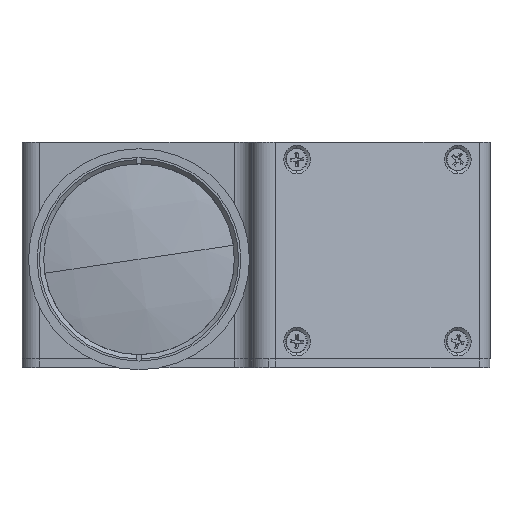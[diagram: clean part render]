
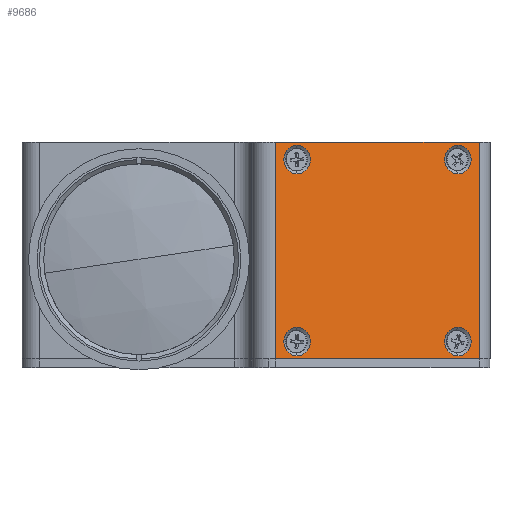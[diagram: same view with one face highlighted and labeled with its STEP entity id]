
A CAD part, left-side view. The second image highlights one B-rep face of the part: STEP entity #9686.
In plain terms, the highlighted planar face has unit normal (-0.927, -0.375, 0).
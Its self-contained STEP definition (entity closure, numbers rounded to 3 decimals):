
#128 = FACE_BOUND ( 'NONE', #13235, .T. ) ;
#204 = DIRECTION ( 'NONE',  ( -0.927, -0.375, 0. ) ) ;
#284 = ORIENTED_EDGE ( 'NONE', *, *, #1780, .F. ) ;
#725 = DIRECTION ( 'NONE',  ( 0.375, -0.927, 0. ) ) ;
#864 = DIRECTION ( 'NONE',  ( 0., 0., 1. ) ) ;
#1017 = AXIS2_PLACEMENT_3D ( 'NONE', #12775, #5886, #13907 ) ;
#1033 = VERTEX_POINT ( 'NONE', #6289 ) ;
#1233 = ORIENTED_EDGE ( 'NONE', *, *, #12392, .T. ) ;
#1567 = EDGE_CURVE ( 'NONE', #1033, #12504, #1904, .T. ) ;
#1697 = DIRECTION ( 'NONE',  ( -0.927, -0.375, 0. ) ) ;
#1733 = LINE ( 'NONE', #11620, #7584 ) ;
#1780 = EDGE_CURVE ( 'NONE', #12620, #10472, #10552, .T. ) ;
#1879 = DIRECTION ( 'NONE',  ( 0., 0., 1. ) ) ;
#1904 = CIRCLE ( 'NONE', #9857, 3.3 ) ;
#1943 = ORIENTED_EDGE ( 'NONE', *, *, #11743, .F. ) ;
#1945 = AXIS2_PLACEMENT_3D ( 'NONE', #8696, #1697, #9869 ) ;
#2750 = AXIS2_PLACEMENT_3D ( 'NONE', #11402, #4480, #12548 ) ;
#2865 = CARTESIAN_POINT ( 'NONE',  ( 71.526, -84.709, -23. ) ) ;
#3056 = VERTEX_POINT ( 'NONE', #6564 ) ;
#3283 = AXIS2_PLACEMENT_3D ( 'NONE', #4199, #12273, #5373 ) ;
#3349 = FACE_BOUND ( 'NONE', #8004, .T. ) ;
#3509 = EDGE_LOOP ( 'NONE', ( #8853, #1943 ) ) ;
#3946 = CARTESIAN_POINT ( 'NONE',  ( 67.03, -73.583, -19. ) ) ;
#3975 = CARTESIAN_POINT ( 'NONE',  ( 67.03, -73.583, 26.3 ) ) ;
#4131 = LINE ( 'NONE', #11262, #12966 ) ;
#4199 = CARTESIAN_POINT ( 'NONE',  ( 52.046, -36.495, 23. ) ) ;
#4291 = DIRECTION ( 'NONE',  ( -0.927, -0.375, 0. ) ) ;
#4320 = CARTESIAN_POINT ( 'NONE',  ( 52.046, -36.495, -15.7 ) ) ;
#4361 = VERTEX_POINT ( 'NONE', #4320 ) ;
#4480 = DIRECTION ( 'NONE',  ( -0.927, -0.375, 0. ) ) ;
#4499 = CARTESIAN_POINT ( 'NONE',  ( 69.017, -78.498, 27. ) ) ;
#4701 = ORIENTED_EDGE ( 'NONE', *, *, #13231, .T. ) ;
#4832 = ORIENTED_EDGE ( 'NONE', *, *, #13754, .F. ) ;
#5125 = DIRECTION ( 'NONE',  ( 0., 0., 1. ) ) ;
#5373 = DIRECTION ( 'NONE',  ( 0., 0., 1. ) ) ;
#5465 = CIRCLE ( 'NONE', #3283, 3.3 ) ;
#5494 = DIRECTION ( 'NONE',  ( -0.927, -0.375, 0. ) ) ;
#5886 = DIRECTION ( 'NONE',  ( -0.927, -0.375, 0. ) ) ;
#6080 = ORIENTED_EDGE ( 'NONE', *, *, #11459, .F. ) ;
#6289 = CARTESIAN_POINT ( 'NONE',  ( 67.03, -73.583, -15.7 ) ) ;
#6359 = AXIS2_PLACEMENT_3D ( 'NONE', #11250, #5494, #13517 ) ;
#6377 = DIRECTION ( 'NONE',  ( -0.375, 0.927, 0. ) ) ;
#6564 = CARTESIAN_POINT ( 'NONE',  ( 52.046, -36.495, 19.7 ) ) ;
#6805 = ORIENTED_EDGE ( 'NONE', *, *, #1567, .F. ) ;
#7015 = VECTOR ( 'NONE', #6377, 1000. ) ;
#7240 = CARTESIAN_POINT ( 'NONE',  ( 52.046, -36.495, 23. ) ) ;
#7459 = VERTEX_POINT ( 'NONE', #4499 ) ;
#7584 = VECTOR ( 'NONE', #13889, 1000. ) ;
#7894 = DIRECTION ( 'NONE',  ( -0.927, -0.375, 0. ) ) ;
#7917 = AXIS2_PLACEMENT_3D ( 'NONE', #7240, #204, #8405 ) ;
#7985 = CIRCLE ( 'NONE', #1945, 3.3 ) ;
#8004 = EDGE_LOOP ( 'NONE', ( #14199, #14102 ) ) ;
#8066 = EDGE_CURVE ( 'NONE', #4361, #12276, #10293, .T. ) ;
#8121 = CARTESIAN_POINT ( 'NONE',  ( 69.017, -78.498, -23. ) ) ;
#8172 = ORIENTED_EDGE ( 'NONE', *, *, #13266, .F. ) ;
#8399 = AXIS2_PLACEMENT_3D ( 'NONE', #11219, #4291, #12365 ) ;
#8405 = DIRECTION ( 'NONE',  ( 0., 0., 1. ) ) ;
#8696 = CARTESIAN_POINT ( 'NONE',  ( 67.03, -73.583, -19. ) ) ;
#8853 = ORIENTED_EDGE ( 'NONE', *, *, #8066, .F. ) ;
#8854 = CARTESIAN_POINT ( 'NONE',  ( 69.017, -78.498, 2. ) ) ;
#8895 = PLANE ( 'NONE',  #6359 ) ;
#9218 = ORIENTED_EDGE ( 'NONE', *, *, #11107, .F. ) ;
#9444 = EDGE_LOOP ( 'NONE', ( #4832, #4701, #8172, #1233 ) ) ;
#9515 = CARTESIAN_POINT ( 'NONE',  ( 67.03, -73.583, -22.3 ) ) ;
#9686 = ADVANCED_FACE ( 'NONE', ( #128, #9848, #12904, #3349, #12185 ), #8895, .T. ) ;
#9848 = FACE_BOUND ( 'NONE', #11803, .T. ) ;
#9857 = AXIS2_PLACEMENT_3D ( 'NONE', #3946, #12027, #5125 ) ;
#9869 = DIRECTION ( 'NONE',  ( 0., 0., 1. ) ) ;
#10003 = CIRCLE ( 'NONE', #2750, 3.3 ) ;
#10031 = VERTEX_POINT ( 'NONE', #10935 ) ;
#10126 = LINE ( 'NONE', #2865, #7015 ) ;
#10293 = CIRCLE ( 'NONE', #10496, 3.3 ) ;
#10472 = VERTEX_POINT ( 'NONE', #14564 ) ;
#10496 = AXIS2_PLACEMENT_3D ( 'NONE', #14737, #7894, #864 ) ;
#10552 = CIRCLE ( 'NONE', #8399, 3.3 ) ;
#10662 = VECTOR ( 'NONE', #1879, 1000. ) ;
#10935 = CARTESIAN_POINT ( 'NONE',  ( 50.035, -31.516, 27. ) ) ;
#11107 = EDGE_CURVE ( 'NONE', #10472, #12620, #10003, .T. ) ;
#11219 = CARTESIAN_POINT ( 'NONE',  ( 67.03, -73.583, 23. ) ) ;
#11250 = CARTESIAN_POINT ( 'NONE',  ( 59.669, -55.363, 2. ) ) ;
#11262 = CARTESIAN_POINT ( 'NONE',  ( 71.526, -84.709, 27. ) ) ;
#11327 = CARTESIAN_POINT ( 'NONE',  ( 50.035, -31.516, -23. ) ) ;
#11402 = CARTESIAN_POINT ( 'NONE',  ( 67.03, -73.583, 23. ) ) ;
#11459 = EDGE_CURVE ( 'NONE', #12504, #1033, #7985, .T. ) ;
#11485 = CARTESIAN_POINT ( 'NONE',  ( 52.046, -36.495, 26.3 ) ) ;
#11620 = CARTESIAN_POINT ( 'NONE',  ( 50.035, -31.516, 2. ) ) ;
#11743 = EDGE_CURVE ( 'NONE', #12276, #4361, #12123, .T. ) ;
#11803 = EDGE_LOOP ( 'NONE', ( #6805, #6080 ) ) ;
#12027 = DIRECTION ( 'NONE',  ( -0.927, -0.375, 0. ) ) ;
#12063 = EDGE_CURVE ( 'NONE', #3056, #12303, #5465, .T. ) ;
#12123 = CIRCLE ( 'NONE', #1017, 3.3 ) ;
#12185 = FACE_OUTER_BOUND ( 'NONE', #9444, .T. ) ;
#12273 = DIRECTION ( 'NONE',  ( -0.927, -0.375, 0. ) ) ;
#12276 = VERTEX_POINT ( 'NONE', #14813 ) ;
#12293 = CIRCLE ( 'NONE', #7917, 3.3 ) ;
#12303 = VERTEX_POINT ( 'NONE', #11485 ) ;
#12365 = DIRECTION ( 'NONE',  ( 0., 0., 1. ) ) ;
#12367 = VERTEX_POINT ( 'NONE', #8121 ) ;
#12392 = EDGE_CURVE ( 'NONE', #10031, #14296, #1733, .T. ) ;
#12502 = EDGE_CURVE ( 'NONE', #12303, #3056, #12293, .T. ) ;
#12504 = VERTEX_POINT ( 'NONE', #9515 ) ;
#12548 = DIRECTION ( 'NONE',  ( 0., 0., 1. ) ) ;
#12620 = VERTEX_POINT ( 'NONE', #3975 ) ;
#12775 = CARTESIAN_POINT ( 'NONE',  ( 52.046, -36.495, -19. ) ) ;
#12904 = FACE_BOUND ( 'NONE', #3509, .T. ) ;
#12966 = VECTOR ( 'NONE', #725, 1000. ) ;
#13231 = EDGE_CURVE ( 'NONE', #12367, #7459, #13680, .T. ) ;
#13235 = EDGE_LOOP ( 'NONE', ( #284, #9218 ) ) ;
#13266 = EDGE_CURVE ( 'NONE', #10031, #7459, #4131, .T. ) ;
#13517 = DIRECTION ( 'NONE',  ( 0., 0., 1. ) ) ;
#13680 = LINE ( 'NONE', #8854, #10662 ) ;
#13754 = EDGE_CURVE ( 'NONE', #12367, #14296, #10126, .T. ) ;
#13889 = DIRECTION ( 'NONE',  ( 0., 0., -1. ) ) ;
#13907 = DIRECTION ( 'NONE',  ( 0., 0., 1. ) ) ;
#14102 = ORIENTED_EDGE ( 'NONE', *, *, #12063, .F. ) ;
#14199 = ORIENTED_EDGE ( 'NONE', *, *, #12502, .F. ) ;
#14296 = VERTEX_POINT ( 'NONE', #11327 ) ;
#14564 = CARTESIAN_POINT ( 'NONE',  ( 67.03, -73.583, 19.7 ) ) ;
#14737 = CARTESIAN_POINT ( 'NONE',  ( 52.046, -36.495, -19. ) ) ;
#14813 = CARTESIAN_POINT ( 'NONE',  ( 52.046, -36.495, -22.3 ) ) ;
